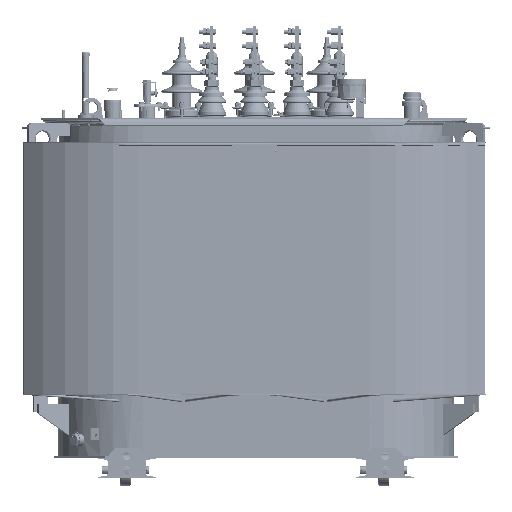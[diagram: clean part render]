
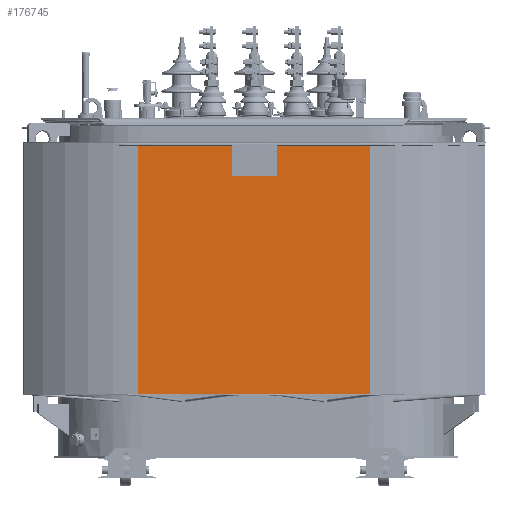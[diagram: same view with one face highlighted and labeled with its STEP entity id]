
A CAD part, front view. The second image highlights one B-rep face of the part: STEP entity #176745.
In plain terms, the highlighted planar face has unit normal (0, 1, 0).
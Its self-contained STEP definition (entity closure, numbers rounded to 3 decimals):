
#14119=PLANE('',#191603);
#23626=FACE_OUTER_BOUND('',#34503,.T.);
#34503=EDGE_LOOP('',(#155693,#155694,#155695,#155696));
#46955=LINE('',#342858,#59415);
#46956=LINE('',#342862,#59416);
#46957=LINE('',#342864,#59417);
#46958=LINE('',#342865,#59418);
#59415=VECTOR('',#233565,10.);
#59416=VECTOR('',#233570,10.);
#59417=VECTOR('',#233571,10.);
#59418=VECTOR('',#233572,10.);
#81997=VERTEX_POINT('',#342855);
#81998=VERTEX_POINT('',#342857);
#81999=VERTEX_POINT('',#342861);
#82000=VERTEX_POINT('',#342863);
#106571=EDGE_CURVE('',#81997,#81998,#46955,.T.);
#106573=EDGE_CURVE('',#81999,#81997,#46956,.T.);
#106574=EDGE_CURVE('',#81999,#82000,#46957,.T.);
#106575=EDGE_CURVE('',#82000,#81998,#46958,.T.);
#155693=ORIENTED_EDGE('',*,*,#106573,.F.);
#155694=ORIENTED_EDGE('',*,*,#106574,.T.);
#155695=ORIENTED_EDGE('',*,*,#106575,.T.);
#155696=ORIENTED_EDGE('',*,*,#106571,.F.);
#176745=ADVANCED_FACE('',(#23626),#14119,.F.);
#191603=AXIS2_PLACEMENT_3D('',#342860,#233568,#233569);
#233565=DIRECTION('',(0.,0.,-1.));
#233568=DIRECTION('center_axis',(0.,-1.,0.));
#233569=DIRECTION('ref_axis',(-1.,0.,0.));
#233570=DIRECTION('',(-1.,0.,0.));
#233571=DIRECTION('',(0.,0.,-1.));
#233572=DIRECTION('',(-1.,0.,0.));
#342855=CARTESIAN_POINT('',(-368.,-507.,1000.));
#342857=CARTESIAN_POINT('',(-368.,-507.,200.));
#342858=CARTESIAN_POINT('',(-368.,-507.,1000.));
#342860=CARTESIAN_POINT('Origin',(368.,-507.,1000.));
#342861=CARTESIAN_POINT('',(368.,-507.,1000.));
#342862=CARTESIAN_POINT('',(368.,-507.,1000.));
#342863=CARTESIAN_POINT('',(368.,-507.,200.));
#342864=CARTESIAN_POINT('',(368.,-507.,1000.));
#342865=CARTESIAN_POINT('',(368.,-507.,200.));
